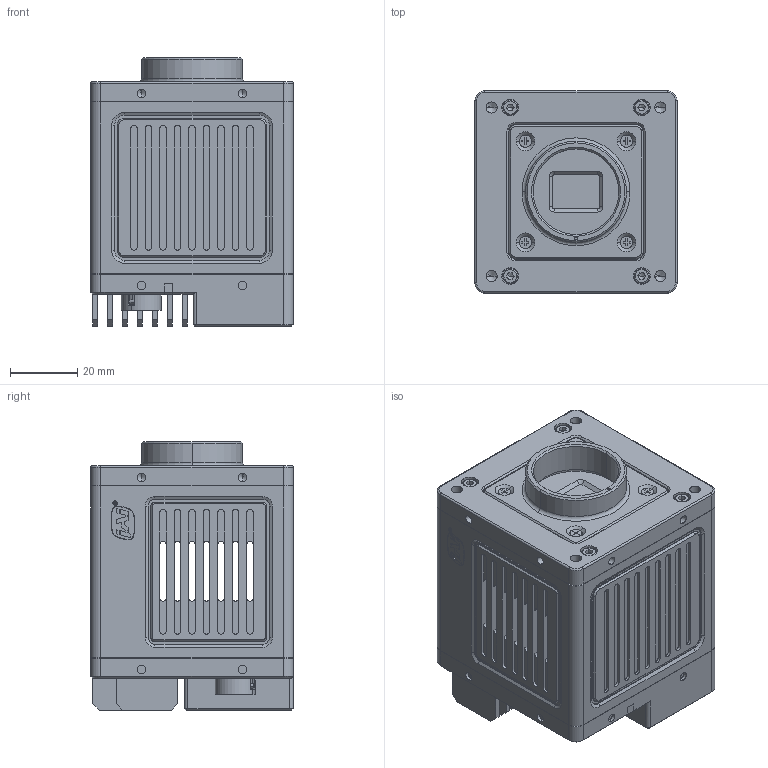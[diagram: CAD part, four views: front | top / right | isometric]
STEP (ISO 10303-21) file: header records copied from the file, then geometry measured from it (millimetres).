
FILE_DESCRIPTION((''),'2;1');
FILE_NAME('WAA-1300-GE-TEC','2026-06-16T17:54:25',('ID'),(''),'CREO PARAMETRIC BY PTC INC, 2021063','CREO PARAMETRIC BY PTC INC, 2021063','');
FILE_SCHEMA(('CONFIG_CONTROL_DESIGN'));
Length unit declared in the file: millimetre
Products named in the file (1): WAA-1300-GE-TEC
Bounding box: 60 x 60 x 79.67 mm (x, y, z)
Volume: 207671.2 mm3; surface area: 66755.6 mm2
Topology: 1 solids, 20 shells, 1539 faces, 4021 edges, 2595 vertices
Faces by surface type: plane 899, cylinder 398, cone 152, extrusion 68, torus 22
Entity records: 48825 total; most frequent: CARTESIAN_POINT 10482, ORIENTED_EDGE 7938, DIRECTION 7883, EDGE_CURVE 3969, VECTOR 2771, LINE 2703, VERTEX_POINT 2595, AXIS2_PLACEMENT_3D 2556
